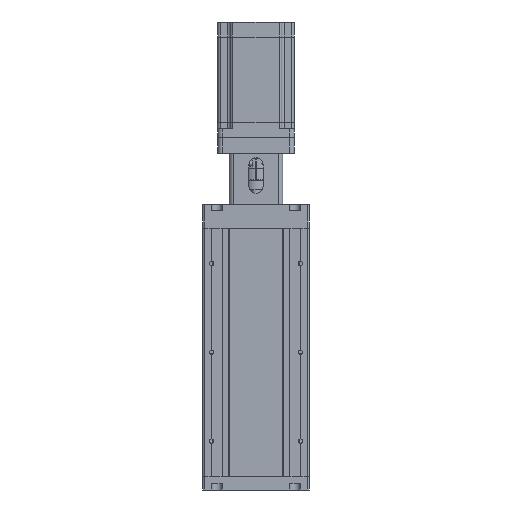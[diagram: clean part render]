
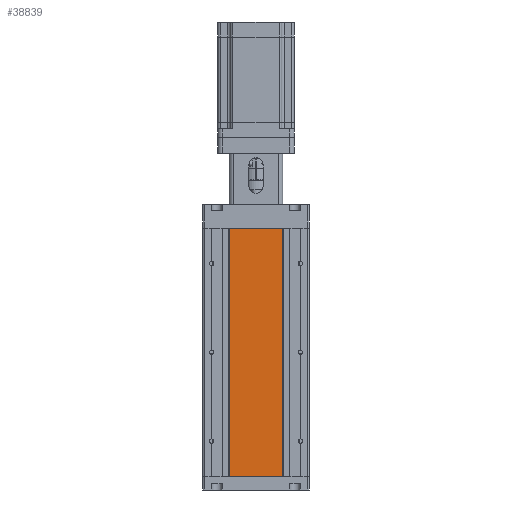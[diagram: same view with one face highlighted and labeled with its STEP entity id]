
A CAD part, front view. The second image highlights one B-rep face of the part: STEP entity #38839.
In plain terms, the highlighted planar face has unit normal (0, -1, 0).
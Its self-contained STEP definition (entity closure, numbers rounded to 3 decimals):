
#460 = EDGE_CURVE ( 'NONE', #34505, #1427, #17890, .T. ) ;
#1427 = VERTEX_POINT ( 'NONE', #81217 ) ;
#8082 = VECTOR ( 'NONE', #24163, 1000. ) ;
#9368 = DIRECTION ( 'NONE',  ( 0., 0., 1. ) ) ;
#11464 = EDGE_LOOP ( 'NONE', ( #34619, #46309, #73158, #70763 ) ) ;
#12159 = DIRECTION ( 'NONE',  ( -1., 0., 0. ) ) ;
#12365 = FACE_OUTER_BOUND ( 'NONE', #11464, .T. ) ;
#16978 = EDGE_CURVE ( 'NONE', #25932, #1427, #34822, .T. ) ;
#17117 = AXIS2_PLACEMENT_3D ( 'NONE', #38238, #45728, #64973 ) ;
#17890 = LINE ( 'NONE', #72377, #8082 ) ;
#18793 = EDGE_CURVE ( 'NONE', #60406, #34505, #25999, .T. ) ;
#21014 = VECTOR ( 'NONE', #26828, 1000. ) ;
#22753 = CARTESIAN_POINT ( 'NONE',  ( 30., -29.2, -140. ) ) ;
#24019 = CARTESIAN_POINT ( 'NONE',  ( -30., -29.2, -140. ) ) ;
#24163 = DIRECTION ( 'NONE',  ( -1., 0., 0. ) ) ;
#25498 = CARTESIAN_POINT ( 'NONE',  ( -30., -29.2, -140. ) ) ;
#25932 = VERTEX_POINT ( 'NONE', #24019 ) ;
#25999 = LINE ( 'NONE', #58607, #21014 ) ;
#26828 = DIRECTION ( 'NONE',  ( 0., 0., 1. ) ) ;
#32791 = PLANE ( 'NONE',  #17117 ) ;
#34505 = VERTEX_POINT ( 'NONE', #60305 ) ;
#34619 = ORIENTED_EDGE ( 'NONE', *, *, #16978, .F. ) ;
#34822 = LINE ( 'NONE', #72446, #56841 ) ;
#38238 = CARTESIAN_POINT ( 'NONE',  ( -30., -29.2, -140. ) ) ;
#38390 = EDGE_CURVE ( 'NONE', #60406, #25932, #69392, .T. ) ;
#38839 = ADVANCED_FACE ( 'NONE', ( #12365 ), #32791, .F. ) ;
#45728 = DIRECTION ( 'NONE',  ( 0., 1., 0. ) ) ;
#46309 = ORIENTED_EDGE ( 'NONE', *, *, #38390, .F. ) ;
#56841 = VECTOR ( 'NONE', #9368, 1000. ) ;
#58607 = CARTESIAN_POINT ( 'NONE',  ( 30., -29.2, -140. ) ) ;
#60305 = CARTESIAN_POINT ( 'NONE',  ( 30., -29.2, 140. ) ) ;
#60406 = VERTEX_POINT ( 'NONE', #22753 ) ;
#62455 = VECTOR ( 'NONE', #12159, 1000. ) ;
#64973 = DIRECTION ( 'NONE',  ( 0., 0., 1. ) ) ;
#69392 = LINE ( 'NONE', #25498, #62455 ) ;
#70763 = ORIENTED_EDGE ( 'NONE', *, *, #460, .T. ) ;
#72377 = CARTESIAN_POINT ( 'NONE',  ( -30., -29.2, 140. ) ) ;
#72446 = CARTESIAN_POINT ( 'NONE',  ( -30., -29.2, -140. ) ) ;
#73158 = ORIENTED_EDGE ( 'NONE', *, *, #18793, .T. ) ;
#81217 = CARTESIAN_POINT ( 'NONE',  ( -30., -29.2, 140. ) ) ;
